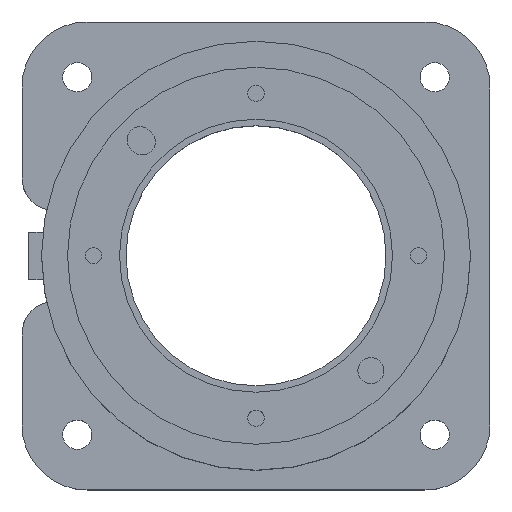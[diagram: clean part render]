
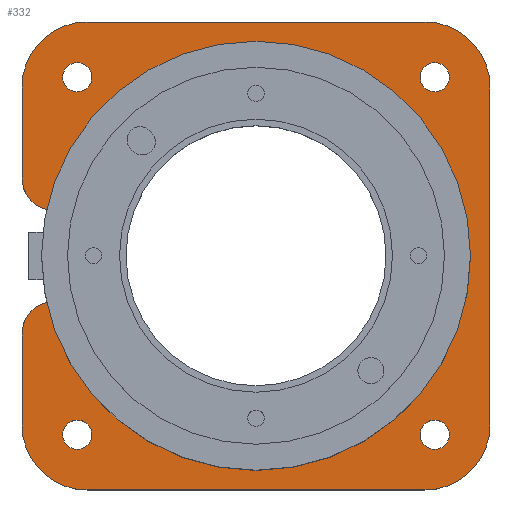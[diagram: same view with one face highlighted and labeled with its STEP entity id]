
A CAD part, top view. The second image highlights one B-rep face of the part: STEP entity #332.
In plain terms, the highlighted planar face has unit normal (0, 0, 1).
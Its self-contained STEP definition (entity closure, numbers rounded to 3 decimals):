
#81=CIRCLE('',#2920,32.75);
#110=CIRCLE('',#2980,2.25);
#111=CIRCLE('',#2981,2.25);
#112=CIRCLE('',#2982,2.25);
#113=CIRCLE('',#2983,2.25);
#114=CIRCLE('',#2984,5.);
#115=CIRCLE('',#2985,5.);
#116=CIRCLE('',#2986,10.);
#117=CIRCLE('',#2987,10.);
#118=CIRCLE('',#2988,10.);
#119=CIRCLE('',#2989,10.);
#332=ADVANCED_FACE('',(#644,#645,#646,#647,#648),#490,.F.);
#490=PLANE('',#2990);
#644=FACE_BOUND('',#777,.T.);
#645=FACE_BOUND('',#778,.T.);
#646=FACE_BOUND('',#779,.T.);
#647=FACE_BOUND('',#780,.T.);
#648=FACE_BOUND('',#781,.T.);
#777=EDGE_LOOP('',(#1160));
#778=EDGE_LOOP('',(#1161));
#779=EDGE_LOOP('',(#1162));
#780=EDGE_LOOP('',(#1163));
#781=EDGE_LOOP('',(#1164,#1165,#1166,#1167,#1168,#1169,#1170,#1171,#1172,
#1173,#1174,#1175));
#1160=ORIENTED_EDGE('',*,*,#2116,.F.);
#1161=ORIENTED_EDGE('',*,*,#2117,.F.);
#1162=ORIENTED_EDGE('',*,*,#2118,.F.);
#1163=ORIENTED_EDGE('',*,*,#2119,.F.);
#1164=ORIENTED_EDGE('',*,*,#2062,.F.);
#1165=ORIENTED_EDGE('',*,*,#2120,.T.);
#1166=ORIENTED_EDGE('',*,*,#2067,.T.);
#1167=ORIENTED_EDGE('',*,*,#2121,.T.);
#1168=ORIENTED_EDGE('',*,*,#2122,.F.);
#1169=ORIENTED_EDGE('',*,*,#2123,.F.);
#1170=ORIENTED_EDGE('',*,*,#2124,.F.);
#1171=ORIENTED_EDGE('',*,*,#2125,.F.);
#1172=ORIENTED_EDGE('',*,*,#2126,.F.);
#1173=ORIENTED_EDGE('',*,*,#2127,.F.);
#1174=ORIENTED_EDGE('',*,*,#2128,.F.);
#1175=ORIENTED_EDGE('',*,*,#2129,.F.);
#1787=VERTEX_POINT('',#4180);
#1788=VERTEX_POINT('',#4182);
#1792=VERTEX_POINT('',#4191);
#1793=VERTEX_POINT('',#4193);
#1832=VERTEX_POINT('',#4312);
#1833=VERTEX_POINT('',#4314);
#1834=VERTEX_POINT('',#4316);
#1835=VERTEX_POINT('',#4318);
#1836=VERTEX_POINT('',#4321);
#1837=VERTEX_POINT('',#4323);
#1838=VERTEX_POINT('',#4325);
#1839=VERTEX_POINT('',#4327);
#1840=VERTEX_POINT('',#4329);
#1841=VERTEX_POINT('',#4331);
#1842=VERTEX_POINT('',#4333);
#1843=VERTEX_POINT('',#4335);
#2062=EDGE_CURVE('',#1787,#1788,#2436,.T.);
#2067=EDGE_CURVE('',#1793,#1792,#81,.T.);
#2116=EDGE_CURVE('',#1832,#1832,#110,.T.);
#2117=EDGE_CURVE('',#1833,#1833,#111,.T.);
#2118=EDGE_CURVE('',#1834,#1834,#112,.T.);
#2119=EDGE_CURVE('',#1835,#1835,#113,.T.);
#2120=EDGE_CURVE('',#1787,#1793,#114,.T.);
#2121=EDGE_CURVE('',#1792,#1836,#115,.T.);
#2122=EDGE_CURVE('',#1837,#1836,#2459,.T.);
#2123=EDGE_CURVE('',#1838,#1837,#116,.T.);
#2124=EDGE_CURVE('',#1839,#1838,#2460,.T.);
#2125=EDGE_CURVE('',#1840,#1839,#117,.T.);
#2126=EDGE_CURVE('',#1841,#1840,#2461,.T.);
#2127=EDGE_CURVE('',#1842,#1841,#118,.T.);
#2128=EDGE_CURVE('',#1843,#1842,#2462,.T.);
#2129=EDGE_CURVE('',#1788,#1843,#119,.T.);
#2436=LINE('',#4181,#2725);
#2459=LINE('',#4322,#2748);
#2460=LINE('',#4326,#2749);
#2461=LINE('',#4330,#2750);
#2462=LINE('',#4334,#2751);
#2725=VECTOR('',#3290,1.);
#2748=VECTOR('',#3451,1.);
#2749=VECTOR('',#3454,1.);
#2750=VECTOR('',#3457,1.);
#2751=VECTOR('',#3460,1.);
#2920=AXIS2_PLACEMENT_3D('',#4192,#3299,#3300);
#2980=AXIS2_PLACEMENT_3D('',#4311,#3439,#3440);
#2981=AXIS2_PLACEMENT_3D('',#4313,#3441,#3442);
#2982=AXIS2_PLACEMENT_3D('',#4315,#3443,#3444);
#2983=AXIS2_PLACEMENT_3D('',#4317,#3445,#3446);
#2984=AXIS2_PLACEMENT_3D('',#4319,#3447,#3448);
#2985=AXIS2_PLACEMENT_3D('',#4320,#3449,#3450);
#2986=AXIS2_PLACEMENT_3D('',#4324,#3452,#3453);
#2987=AXIS2_PLACEMENT_3D('',#4328,#3455,#3456);
#2988=AXIS2_PLACEMENT_3D('',#4332,#3458,#3459);
#2989=AXIS2_PLACEMENT_3D('',#4336,#3461,#3462);
#2990=AXIS2_PLACEMENT_3D('',#4337,#3463,#3464);
#3290=DIRECTION('',(0.,1.,0.));
#3299=DIRECTION('',(0.,0.,-1.));
#3300=DIRECTION('',(-1.,0.,0.));
#3439=DIRECTION('',(0.,0.,1.));
#3440=DIRECTION('',(1.,0.,0.));
#3441=DIRECTION('',(0.,0.,1.));
#3442=DIRECTION('',(1.,0.,0.));
#3443=DIRECTION('',(0.,0.,1.));
#3444=DIRECTION('',(1.,0.,0.));
#3445=DIRECTION('',(0.,0.,1.));
#3446=DIRECTION('',(1.,0.,0.));
#3447=DIRECTION('',(0.,0.,1.));
#3448=DIRECTION('',(-1.,0.,0.));
#3449=DIRECTION('',(0.,0.,1.));
#3450=DIRECTION('',(-1.,0.,0.));
#3451=DIRECTION('',(0.,1.,0.));
#3452=DIRECTION('',(0.,0.,-1.));
#3453=DIRECTION('',(-1.,0.,0.));
#3454=DIRECTION('',(-1.,0.,0.));
#3455=DIRECTION('',(0.,0.,-1.));
#3456=DIRECTION('',(-1.,0.,0.));
#3457=DIRECTION('',(0.,-1.,0.));
#3458=DIRECTION('',(0.,0.,-1.));
#3459=DIRECTION('',(-1.,0.,0.));
#3460=DIRECTION('',(1.,0.,0.));
#3461=DIRECTION('',(0.,0.,-1.));
#3462=DIRECTION('',(-1.,0.,0.));
#3463=DIRECTION('',(0.,0.,-1.));
#3464=DIRECTION('',(-1.,0.,0.));
#4180=CARTESIAN_POINT('',(-36.,12.,-24.));
#4181=CARTESIAN_POINT('',(-36.,-26.,-24.));
#4182=CARTESIAN_POINT('',(-36.,26.,-24.));
#4191=CARTESIAN_POINT('',(-31.972,-7.095,-24.));
#4192=CARTESIAN_POINT('',(0.,0.,-24.));
#4193=CARTESIAN_POINT('',(-31.972,7.095,-24.));
#4311=CARTESIAN_POINT('',(-27.5,-27.5,-24.));
#4312=CARTESIAN_POINT('',(-25.25,-27.5,-24.));
#4313=CARTESIAN_POINT('',(27.5,-27.5,-24.));
#4314=CARTESIAN_POINT('',(29.75,-27.5,-24.));
#4315=CARTESIAN_POINT('',(-27.5,27.5,-24.));
#4316=CARTESIAN_POINT('',(-25.25,27.5,-24.));
#4317=CARTESIAN_POINT('',(27.5,27.5,-24.));
#4318=CARTESIAN_POINT('',(29.75,27.5,-24.));
#4319=CARTESIAN_POINT('',(-31.,12.,-24.));
#4320=CARTESIAN_POINT('',(-31.,-12.,-24.));
#4321=CARTESIAN_POINT('',(-36.,-12.,-24.));
#4322=CARTESIAN_POINT('',(-36.,-26.,-24.));
#4323=CARTESIAN_POINT('',(-36.,-26.,-24.));
#4324=CARTESIAN_POINT('',(-26.,-26.,-24.));
#4325=CARTESIAN_POINT('',(-26.,-36.,-24.));
#4326=CARTESIAN_POINT('',(26.,-36.,-24.));
#4327=CARTESIAN_POINT('',(26.,-36.,-24.));
#4328=CARTESIAN_POINT('',(26.,-26.,-24.));
#4329=CARTESIAN_POINT('',(36.,-26.,-24.));
#4330=CARTESIAN_POINT('',(36.,26.,-24.));
#4331=CARTESIAN_POINT('',(36.,26.,-24.));
#4332=CARTESIAN_POINT('',(26.,26.,-24.));
#4333=CARTESIAN_POINT('',(26.,36.,-24.));
#4334=CARTESIAN_POINT('',(-26.,36.,-24.));
#4335=CARTESIAN_POINT('',(-26.,36.,-24.));
#4336=CARTESIAN_POINT('',(-26.,26.,-24.));
#4337=CARTESIAN_POINT('',(-26.,-26.,-24.));
